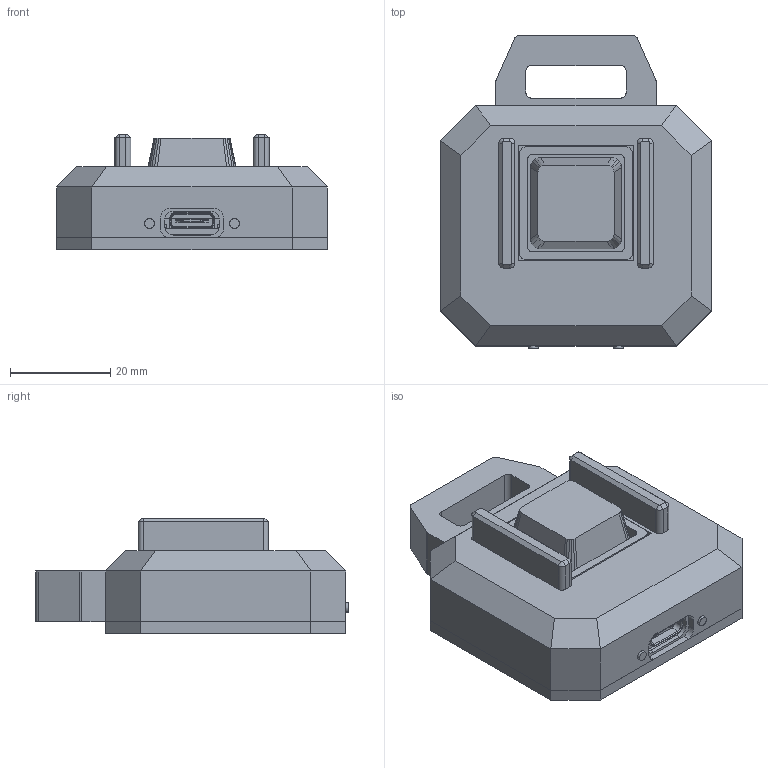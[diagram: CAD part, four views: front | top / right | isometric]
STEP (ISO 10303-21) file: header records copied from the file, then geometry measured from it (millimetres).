
FILE_DESCRIPTION(('Open CASCADE Model'),'2;1');
FILE_NAME('Open CASCADE Shape Model','2026-09-28T16:03:24',('Author'),( 'Open CASCADE'),'Open CASCADE STEP processor 7.9','Open CASCADE 7.9' ,'Unknown');
FILE_SCHEMA(('AUTOMOTIVE_DESIGN { 1 0 10303 214 1 1 1 1 }'));
Length unit declared in the file: millimetre
Products named in the file (7): 5ee33012-bb45-11f1-9d48-e182bab60da6; upper_shell; bottom_chassis; keycap; accent_halo; lightguides; Seeed_XIAO_ESP32S3_reference
Assembly tree (6 placements, depth 2):
  5ee33012-bb45-11f1-9d48-e182bab60da6
    upper_shell
    bottom_chassis
    keycap
    accent_halo
    lightguides
    Seeed_XIAO_ESP32S3_reference
Bounding box: 54 x 62.5 x 23 mm (x, y, z)
Volume: 21400.3 mm3; surface area: 22283 mm2
Topology: 42 solids, 47 shells, 1256 faces, 3203 edges, 2079 vertices
Faces by surface type: plane 894, cylinder 258, bspline 67, cone 19, torus 12, sphere 6
Full cylindrical faces by diameter (mm): 0.5 x3, 0.6 x2, 0.75 x14, 1.524 x8, 1.72 x1, 1.86 x1, 1.9 x2, 2 x4, 3.4 x6, 5.8 x1, 7.2 x2
Entity records: 80863 total; most frequent: CARTESIAN_POINT 16264, DIRECTION 11795, LINE 7992, VECTOR 7992, ORIENTED_EDGE 6390, PCURVE 6390, DEFINITIONAL_REPRESENTATION 6390, EDGE_CURVE 3195
